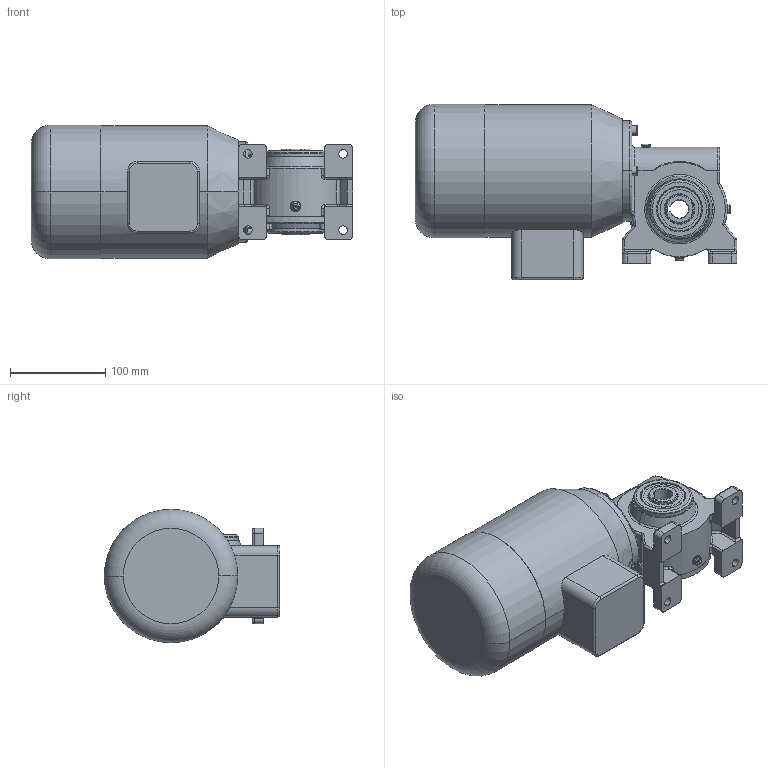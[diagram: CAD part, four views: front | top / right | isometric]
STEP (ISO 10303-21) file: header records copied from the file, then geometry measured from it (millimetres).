
FILE_DESCRIPTION (( 'STEP AP214' ), '1' );
FILE_NAME ('SN9SHH_370W_Drehstrom-Motor_B.STEP', '2021-05-10T10:41:23', ( '' ), ( '' ), 'SwSTEP 2.0', 'SolidWorks 2019', '' );
FILE_SCHEMA (( 'AUTOMOTIVE_DESIGN' ));
Length unit declared in the file: millimetre
Products named in the file (1): SN9SHH_370W_Drehstrom-Motor_B
Bounding box: 337 x 184 x 140 mm (x, y, z)
Surface area: 213663.5 mm2 (no closed solid volume)
Topology: 0 solids, 30 shells, 444 faces, 1197 edges, 755 vertices
Faces by surface type: cylinder 157, plane 147, torus 69, cone 47, bspline 20, sphere 4
Entity records: 20477 total; most frequent: CARTESIAN_POINT 4560, DIRECTION 2464, ORIENTED_EDGE 2093, EDGE_CURVE 1167, AXIS2_PLACEMENT_3D 991, VERTEX_POINT 751, CIRCLE 566, EDGE_LOOP 510
